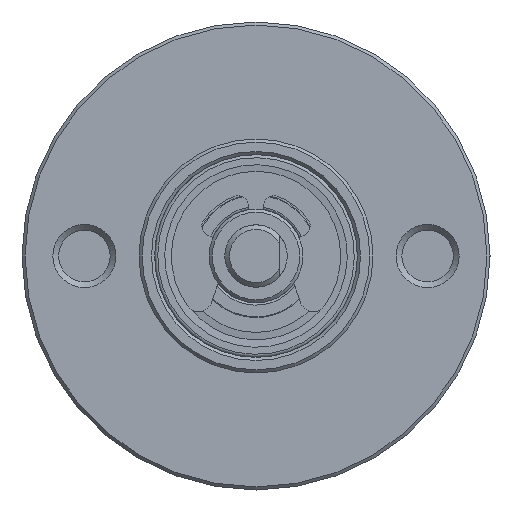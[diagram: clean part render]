
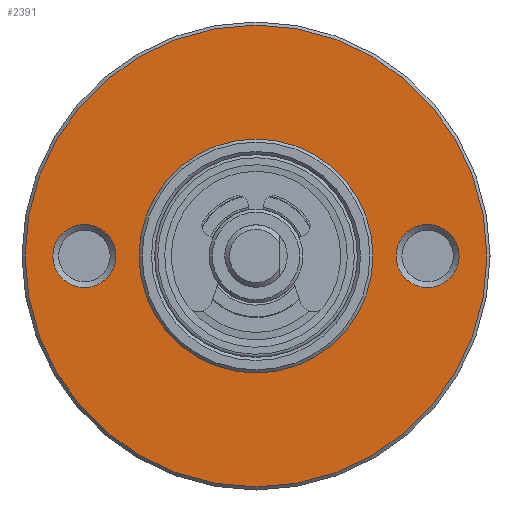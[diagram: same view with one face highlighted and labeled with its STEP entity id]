
A CAD part, front view. The second image highlights one B-rep face of the part: STEP entity #2391.
In plain terms, the highlighted planar face has unit normal (0, -1, 0).
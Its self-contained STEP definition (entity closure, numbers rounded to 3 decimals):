
#18 = CARTESIAN_POINT ( 'NONE',  ( 0., 0., 0. ) ) ;
#43 = CARTESIAN_POINT ( 'NONE',  ( 0., 0., 0. ) ) ;
#57 = VERTEX_POINT ( 'NONE', #4092 ) ;
#74 = FACE_OUTER_BOUND ( 'NONE', #1563, .T. ) ;
#85 = DIRECTION ( 'NONE',  ( 0., 0., -1. ) ) ;
#100 = CARTESIAN_POINT ( 'NONE',  ( 11., 0., 2.025 ) ) ;
#126 = ORIENTED_EDGE ( 'NONE', *, *, #1757, .T. ) ;
#740 = DIRECTION ( 'NONE',  ( 0., 1., 0. ) ) ;
#768 = PLANE ( 'NONE',  #1536 ) ;
#920 = ORIENTED_EDGE ( 'NONE', *, *, #989, .F. ) ;
#989 = EDGE_CURVE ( 'NONE', #3076, #3076, #3799, .T. ) ;
#1123 = DIRECTION ( 'NONE',  ( 0., -1., 0. ) ) ;
#1325 = ORIENTED_EDGE ( 'NONE', *, *, #1634, .T. ) ;
#1518 = EDGE_CURVE ( 'NONE', #1762, #1762, #3999, .T. ) ;
#1536 = AXIS2_PLACEMENT_3D ( 'NONE', #1547, #1843, #3879 ) ;
#1547 = CARTESIAN_POINT ( 'NONE',  ( 0., 0., 0. ) ) ;
#1563 = EDGE_LOOP ( 'NONE', ( #1325 ) ) ;
#1634 = EDGE_CURVE ( 'NONE', #57, #57, #2113, .T. ) ;
#1692 = AXIS2_PLACEMENT_3D ( 'NONE', #43, #740, #85 ) ;
#1731 = FACE_BOUND ( 'NONE', #4316, .T. ) ;
#1757 = EDGE_CURVE ( 'NONE', #2425, #2425, #3603, .T. ) ;
#1762 = VERTEX_POINT ( 'NONE', #100 ) ;
#1811 = ORIENTED_EDGE ( 'NONE', *, *, #1518, .F. ) ;
#1820 = CARTESIAN_POINT ( 'NONE',  ( 0., 0., -7.5 ) ) ;
#1843 = DIRECTION ( 'NONE',  ( 0., -1., 0. ) ) ;
#1944 = EDGE_LOOP ( 'NONE', ( #920 ) ) ;
#1975 = CARTESIAN_POINT ( 'NONE',  ( -11., 0., 0. ) ) ;
#1999 = DIRECTION ( 'NONE',  ( 0., 0., 1. ) ) ;
#2113 = CIRCLE ( 'NONE', #3380, 14.8 ) ;
#2355 = DIRECTION ( 'NONE',  ( 0., -1., 0. ) ) ;
#2391 = ADVANCED_FACE ( 'NONE', ( #74, #2486, #1731, #3150 ), #768, .T. ) ;
#2425 = VERTEX_POINT ( 'NONE', #1820 ) ;
#2486 = FACE_BOUND ( 'NONE', #1944, .T. ) ;
#2633 = AXIS2_PLACEMENT_3D ( 'NONE', #3333, #3264, #1999 ) ;
#2959 = DIRECTION ( 'NONE',  ( 0., 0., 1. ) ) ;
#3076 = VERTEX_POINT ( 'NONE', #3098 ) ;
#3098 = CARTESIAN_POINT ( 'NONE',  ( -11., 0., 2.025 ) ) ;
#3150 = FACE_BOUND ( 'NONE', #3842, .T. ) ;
#3264 = DIRECTION ( 'NONE',  ( 0., -1., 0. ) ) ;
#3333 = CARTESIAN_POINT ( 'NONE',  ( 11., 0., 0. ) ) ;
#3380 = AXIS2_PLACEMENT_3D ( 'NONE', #18, #1123, #3437 ) ;
#3437 = DIRECTION ( 'NONE',  ( 0., 0., 1. ) ) ;
#3603 = CIRCLE ( 'NONE', #1692, 7.5 ) ;
#3725 = AXIS2_PLACEMENT_3D ( 'NONE', #1975, #2355, #2959 ) ;
#3799 = CIRCLE ( 'NONE', #3725, 2.025 ) ;
#3842 = EDGE_LOOP ( 'NONE', ( #126 ) ) ;
#3879 = DIRECTION ( 'NONE',  ( 0., 0., 1. ) ) ;
#3999 = CIRCLE ( 'NONE', #2633, 2.025 ) ;
#4092 = CARTESIAN_POINT ( 'NONE',  ( 0., 0., 14.8 ) ) ;
#4316 = EDGE_LOOP ( 'NONE', ( #1811 ) ) ;
